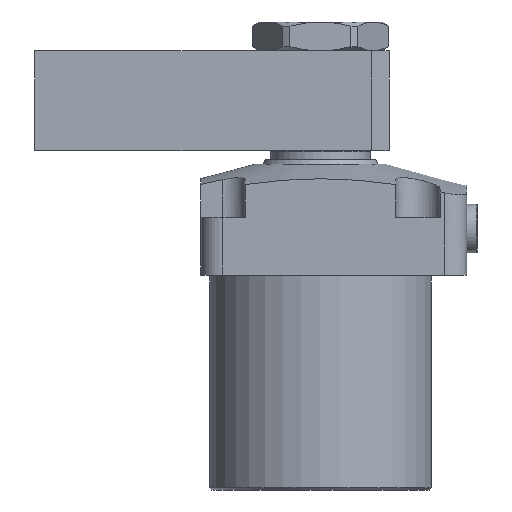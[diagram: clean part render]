
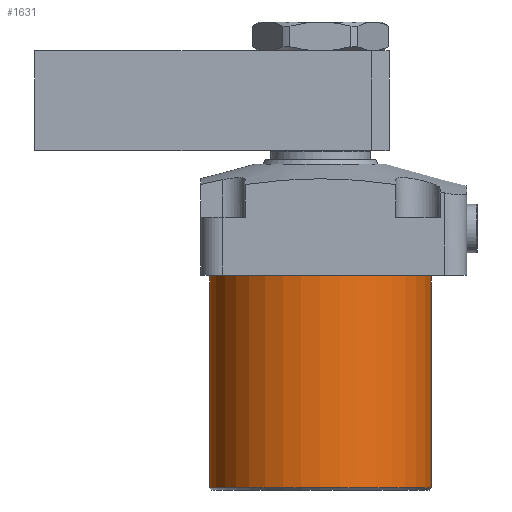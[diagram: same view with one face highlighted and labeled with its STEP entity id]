
A CAD part, front view. The second image highlights one B-rep face of the part: STEP entity #1631.
In plain terms, the highlighted cylindrical face has radius 50 mm (diameter 100 mm), a full revolution.
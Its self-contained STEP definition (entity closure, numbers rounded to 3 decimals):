
#1554=CYLINDRICAL_SURFACE('',#3798,50.);
#1631=ADVANCED_FACE('',(#1883,#1884),#1554,.T.);
#1883=FACE_BOUND('',#2041,.T.);
#1884=FACE_BOUND('',#2042,.T.);
#2041=EDGE_LOOP('',(#2357));
#2042=EDGE_LOOP('',(#2358));
#2357=ORIENTED_EDGE('',*,*,#3193,.T.);
#2358=ORIENTED_EDGE('',*,*,#3194,.T.);
#2945=VERTEX_POINT('',#5010);
#2946=VERTEX_POINT('',#5012);
#3193=EDGE_CURVE('',#2945,#2945,#3464,.T.);
#3194=EDGE_CURVE('',#2946,#2946,#3465,.T.);
#3464=CIRCLE('',#3796,50.);
#3465=CIRCLE('',#3797,50.);
#3796=AXIS2_PLACEMENT_3D('',#5009,#4180,#4181);
#3797=AXIS2_PLACEMENT_3D('',#5011,#4182,#4183);
#3798=AXIS2_PLACEMENT_3D('',#5013,#4184,#4185);
#4180=DIRECTION('',(0.,0.,-1.));
#4181=DIRECTION('',(0.,-1.,0.));
#4182=DIRECTION('',(0.,0.,1.));
#4183=DIRECTION('',(0.,-1.,0.));
#4184=DIRECTION('',(0.,0.,-1.));
#4185=DIRECTION('',(0.,1.,0.));
#5009=CARTESIAN_POINT('',(0.,74.5,22.1));
#5010=CARTESIAN_POINT('',(0.,24.5,22.1));
#5011=CARTESIAN_POINT('',(0.,74.5,-73.5));
#5012=CARTESIAN_POINT('',(0.,24.5,-73.5));
#5013=CARTESIAN_POINT('',(0.,74.5,22.5));
